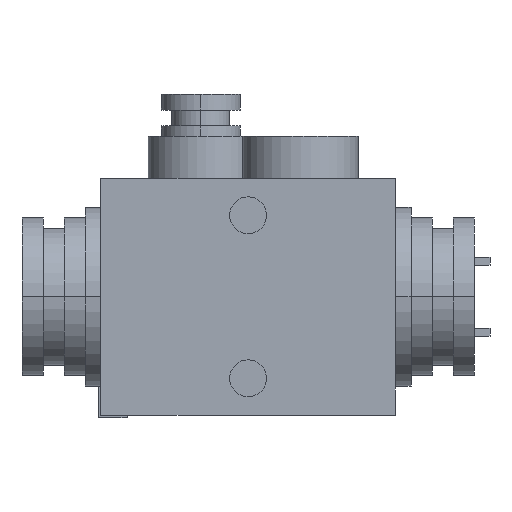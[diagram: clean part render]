
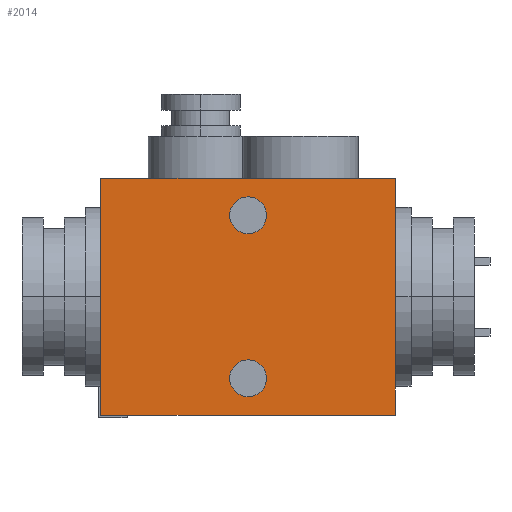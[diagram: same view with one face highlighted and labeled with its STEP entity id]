
A CAD part, front view. The second image highlights one B-rep face of the part: STEP entity #2014.
In plain terms, the highlighted planar face has unit normal (0, -1, 0).
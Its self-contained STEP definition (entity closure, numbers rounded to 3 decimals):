
#61=DIRECTION('',(1.,0.,0.));
#62=VECTOR('',#61,28.);
#63=CARTESIAN_POINT('',(-14.,-14.5,-11.25));
#64=LINE('',#63,#62);
#101=DIRECTION('',(1.,0.,0.));
#102=VECTOR('',#101,28.);
#103=CARTESIAN_POINT('',(-14.,-14.5,11.25));
#104=LINE('',#103,#102);
#371=DIRECTION('',(0.,0.,1.));
#372=VECTOR('',#371,22.5);
#373=CARTESIAN_POINT('',(14.,-14.5,-11.25));
#374=LINE('',#373,#372);
#395=DIRECTION('',(0.,0.,1.));
#396=VECTOR('',#395,22.5);
#397=CARTESIAN_POINT('',(-14.,-14.5,-11.25));
#398=LINE('',#397,#396);
#399=CARTESIAN_POINT('',(0.,-14.5,7.75));
#400=DIRECTION('',(0.,-1.,0.));
#401=DIRECTION('',(-1.,0.,0.));
#402=AXIS2_PLACEMENT_3D('',#399,#400,#401);
#404=CARTESIAN_POINT('',(0.,-14.5,7.75));
#405=DIRECTION('',(0.,-1.,0.));
#406=DIRECTION('',(1.,0.,0.));
#407=AXIS2_PLACEMENT_3D('',#404,#405,#406);
#409=CARTESIAN_POINT('',(0.,-14.5,-7.75));
#410=DIRECTION('',(0.,-1.,0.));
#411=DIRECTION('',(-1.,0.,0.));
#412=AXIS2_PLACEMENT_3D('',#409,#410,#411);
#414=CARTESIAN_POINT('',(0.,-14.5,-7.75));
#415=DIRECTION('',(0.,-1.,0.));
#416=DIRECTION('',(1.,0.,0.));
#417=AXIS2_PLACEMENT_3D('',#414,#415,#416);
#1137=CARTESIAN_POINT('',(-14.,-14.5,-11.25));
#1138=CARTESIAN_POINT('',(14.,-14.5,-11.25));
#1139=VERTEX_POINT('',#1137);
#1140=VERTEX_POINT('',#1138);
#1146=CARTESIAN_POINT('',(-14.,-14.5,11.25));
#1148=VERTEX_POINT('',#1146);
#1149=CARTESIAN_POINT('',(14.,-14.5,11.25));
#1150=VERTEX_POINT('',#1149);
#1473=CARTESIAN_POINT('',(-1.75,-14.5,7.75));
#1474=CARTESIAN_POINT('',(1.75,-14.5,7.75));
#1475=VERTEX_POINT('',#1473);
#1476=VERTEX_POINT('',#1474);
#1477=CARTESIAN_POINT('',(-1.75,-14.5,-7.75));
#1478=CARTESIAN_POINT('',(1.75,-14.5,-7.75));
#1479=VERTEX_POINT('',#1477);
#1480=VERTEX_POINT('',#1478);
#1991=CARTESIAN_POINT('',(-14.,-14.5,-11.25));
#1992=DIRECTION('',(0.,-1.,0.));
#1993=DIRECTION('',(1.,0.,0.));
#1994=AXIS2_PLACEMENT_3D('',#1991,#1992,#1993);
#1995=PLANE('',#1994);
#1996=ORIENTED_EDGE('',*,*,#1492,.F.);
#1997=ORIENTED_EDGE('',*,*,#1636,.T.);
#1998=ORIENTED_EDGE('',*,*,#1566,.T.);
#1999=ORIENTED_EDGE('',*,*,#1966,.F.);
#2000=EDGE_LOOP('',(#1996,#1997,#1998,#1999));
#2001=FACE_OUTER_BOUND('',#2000,.F.);
#2003=ORIENTED_EDGE('',*,*,#2002,.T.);
#2005=ORIENTED_EDGE('',*,*,#2004,.T.);
#2006=EDGE_LOOP('',(#2003,#2005));
#2007=FACE_BOUND('',#2006,.F.);
#2009=ORIENTED_EDGE('',*,*,#2008,.T.);
#2011=ORIENTED_EDGE('',*,*,#2010,.T.);
#2012=EDGE_LOOP('',(#2009,#2011));
#2013=FACE_BOUND('',#2012,.F.);
#2014=ADVANCED_FACE('',(#2001,#2007,#2013),#1995,.T.);
#403=CIRCLE('',#402,1.75);
#408=CIRCLE('',#407,1.75);
#413=CIRCLE('',#412,1.75);
#418=CIRCLE('',#417,1.75);
#1492=EDGE_CURVE('',#1139,#1140,#64,.T.);
#1566=EDGE_CURVE('',#1148,#1150,#104,.T.);
#1636=EDGE_CURVE('',#1139,#1148,#398,.T.);
#1966=EDGE_CURVE('',#1140,#1150,#374,.T.);
#2002=EDGE_CURVE('',#1475,#1476,#403,.T.);
#2004=EDGE_CURVE('',#1476,#1475,#408,.T.);
#2008=EDGE_CURVE('',#1479,#1480,#413,.T.);
#2010=EDGE_CURVE('',#1480,#1479,#418,.T.);
